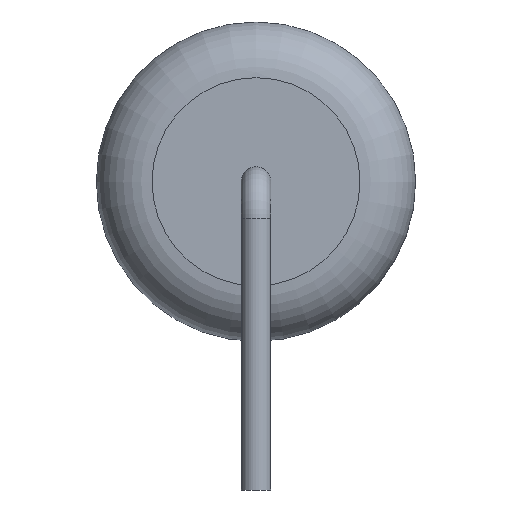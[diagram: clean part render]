
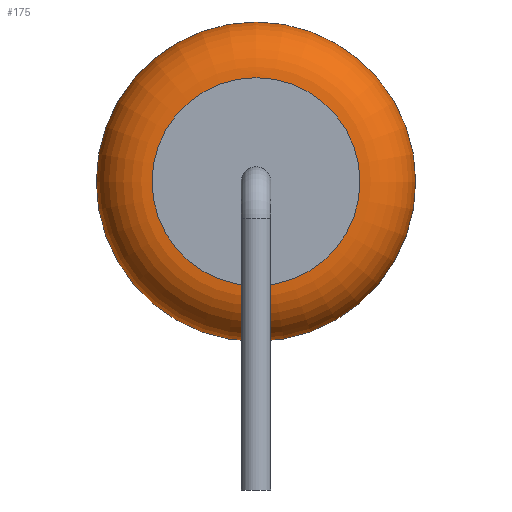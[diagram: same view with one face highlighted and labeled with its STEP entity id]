
A CAD part, left-side view. The second image highlights one B-rep face of the part: STEP entity #175.
In plain terms, the highlighted toroidal (fillet/blend) face has major radius 2.8 mm and minor radius 1.5 mm.
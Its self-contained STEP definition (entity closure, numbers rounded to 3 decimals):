
#175=ADVANCED_FACE('',(#344,#346),#348,.T.);
#344=FACE_OUTER_BOUND('',#345,.T.);
#345=EDGE_LOOP('',(#421));
#346=FACE_OUTER_BOUND('',#347,.T.);
#347=EDGE_LOOP('',(#422));
#348=TOROIDAL_SURFACE('',#349,2.8,1.5);
#349=AXIS2_PLACEMENT_3D('',#350,#351,#352);
#350=CARTESIAN_POINT('',(-7.75,0.,0.));
#351=DIRECTION('',(-1.,0.,0.));
#352=DIRECTION('',(0.,0.,1.));
#421=ORIENTED_EDGE('',*,*,#444,.T.);
#422=ORIENTED_EDGE('',*,*,#445,.F.);
#444=EDGE_CURVE('',#474,#474,#475,.T.);
#445=EDGE_CURVE('',#476,#476,#477,.T.);
#474=VERTEX_POINT('',#546);
#475=CIRCLE('',#547,4.3);
#476=VERTEX_POINT('',#551);
#477=CIRCLE('',#552,2.8);
#546=CARTESIAN_POINT('',(-7.75,0.,4.3));
#547=AXIS2_PLACEMENT_3D('',#548,#549,#550);
#548=CARTESIAN_POINT('',(-7.75,0.,0.));
#549=DIRECTION('',(-1.,0.,0.));
#550=DIRECTION('',(0.,0.,1.));
#551=CARTESIAN_POINT('',(-9.25,0.,2.8));
#552=AXIS2_PLACEMENT_3D('',#553,#554,#555);
#553=CARTESIAN_POINT('',(-9.25,0.,0.));
#554=DIRECTION('',(-1.,0.,0.));
#555=DIRECTION('',(0.,0.,1.));
